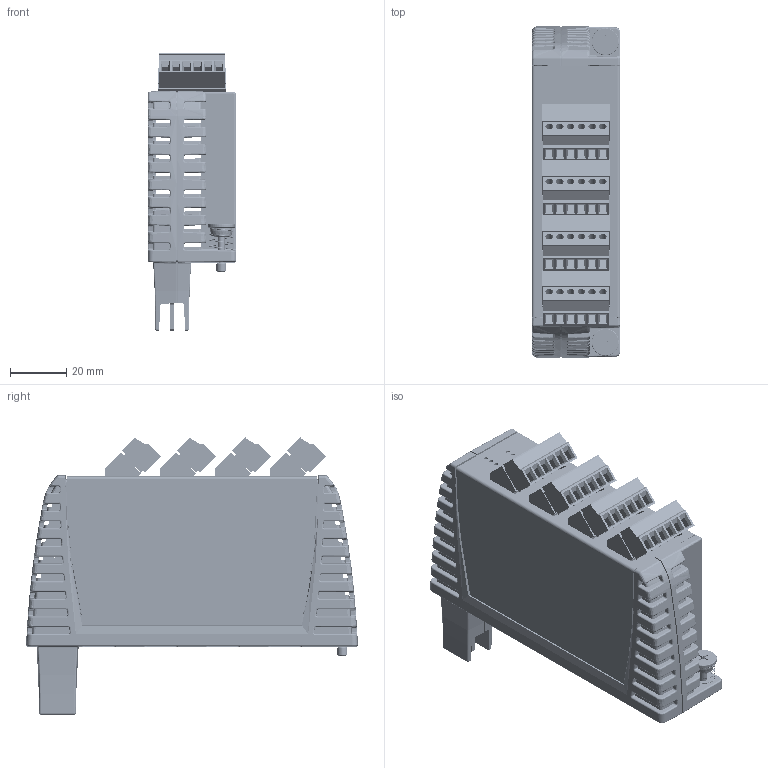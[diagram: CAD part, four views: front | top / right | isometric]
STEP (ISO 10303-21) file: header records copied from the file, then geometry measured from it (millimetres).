
FILE_DESCRIPTION (( 'STEP AP203' ), '1' );
FILE_NAME ('GMUIN4.STEP', '2013-09-09T14:14:24', ( 'Network Administration' ), ( 'Red Lion Controls Inc.' ), 'SwSTEP 2.0', 'SolidWorks 2013', '' );
FILE_SCHEMA (( 'CONFIG_CONTROL_DESIGN' ));
Length unit declared in the file: millimetre
Products named in the file (14): CA503100_MODULE CASE, RIGHT HALF; CNTP06G0-1; CV514900_MODULE SHEET METAL WRAP_CV115107 UIN4 MODULE WRAP; CNTP06xA; McMC 90402A106; 4conn_assy; McMC 90692A086; GMUIN4; McMC 91771A143_91771A143; PEM SCBR-632-8 ZI; MODULE LABEL; UIN4_MAIN_BD-1; CA503000_MODULE CASE, LEFT HALF; UIN4_FRONT-1
Assembly tree (25 placements, depth 3):
  GMUIN4
    CA503000_MODULE CASE, LEFT HALF
    CA503100_MODULE CASE, RIGHT HALF
    CV514900_MODULE SHEET METAL WRAP_CV115107 UIN4 MODULE WRAP
    McMC 90402A106  x2
    McMC 90692A086  x4
    McMC 91771A143_91771A143  x2
    PEM SCBR-632-8 ZI  x2
    MODULE LABEL
    4conn_assy
      UIN4_MAIN_BD-1
      UIN4_FRONT-1
      CNTP06G0-1  x4
      CNTP06xA  x4
Bounding box: 31.5 x 117.84 x 98.44 mm (x, y, z)
Volume: 66861.5 mm3; surface area: 94887.1 mm2
Topology: 26 solids, 26 shells, 6120 faces, 15451 edges, 9434 vertices
Faces by surface type: plane 2329, bspline 1851, cylinder 1481, cone 416, sphere 34, torus 9
Entity records: 221090 total; most frequent: CARTESIAN_POINT 129429, ORIENTED_EDGE 22208, DIRECTION 13987, EDGE_CURVE 11104, VERTEX_POINT 6689, AXIS2_PLACEMENT_3D 4977, EDGE_LOOP 4607, FACE_OUTER_BOUND 4443
